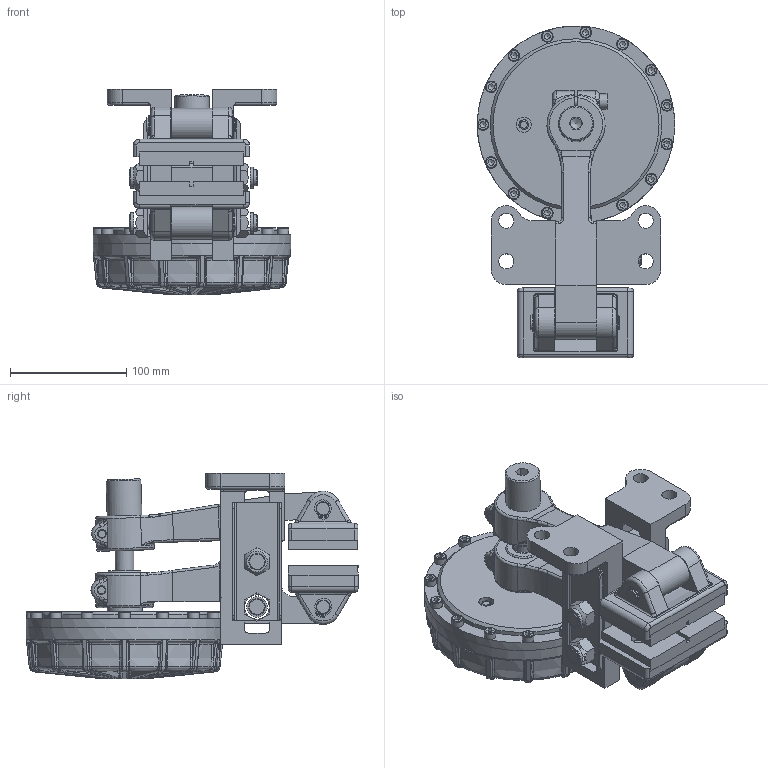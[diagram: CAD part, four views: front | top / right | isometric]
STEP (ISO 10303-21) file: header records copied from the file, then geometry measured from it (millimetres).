
FILE_DESCRIPTION(/* description */ ('','CAx-IF Rec.Pracs.---Representation and Presentation of Product Manufacturing Information (PMI)---4.0---2014-10-13'),/* implementation_level */ '2;1');
FILE_NAME(/* name */ 'X:\INVENTOR\DISEGNI\19_Pinze\STEP x Sito\PNEUM-POSITIVE\19_16_340_03 PPHP340_12,7.stp',/* time_stamp */ '2018-02-14T16:40:33+01:00',/* author */ ('stefano'),/* organization */ (''),/* preprocessor_version */ 'ST-DEVELOPER v17',/* originating_system */ 'Autodesk Inventor 2018',/* authorisation */ '');
FILE_SCHEMA (('AP242_MANAGED_MODEL_BASED_3D_ENGINEERING_MIM_LF { 1 0 10303 442 1 1 4 }'));
Products named in the file (1): 19_16_340_03 PPHP340_12,7_Substitute_3
Bounding box: 170 x 285.95 x 177.35 mm (x, y, z)
Volume: 2240937 mm3; surface area: 277022.8 mm2
Topology: 1 solids, 1 shells, 1832 faces, 4852 edges, 3037 vertices
Faces by surface type: plane 558, bspline 493, cylinder 483, torus 177, cone 120, sphere 1
Full cylindrical faces by diameter (mm): 1.7 x8, 4.917 x2, 5 x1, 6 x2, 6.5 x4, 8 x2, 8.5 x2, 9.5 x2, 10 x16, 11.5 x4, 12 x13, 13 x11, 13.5 x2, 14 x4, 14.95 x1, 16 x2, 17.85 x4, 19 x1, 22.6 x1, 30 x2, 40 x1, 120 x1, 148 x1, 170 x2
Entity records: 73322 total; most frequent: CARTESIAN_POINT 29319, ORIENTED_EDGE 9628, DIRECTION 7973, EDGE_CURVE 4814, AXIS2_PLACEMENT_3D 3254, VERTEX_POINT 3037, EDGE_LOOP 1932, FACE_OUTER_BOUND 1832
